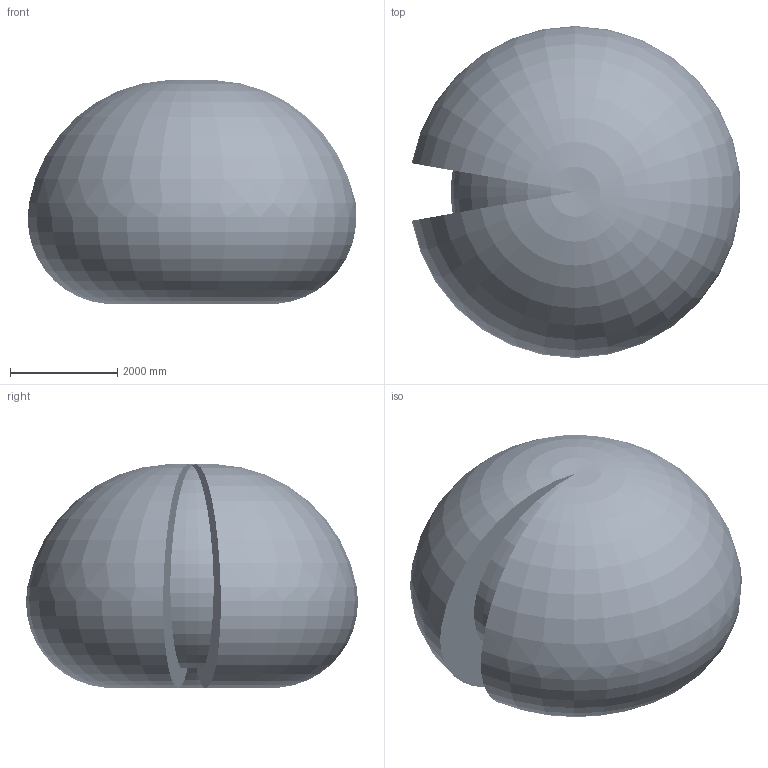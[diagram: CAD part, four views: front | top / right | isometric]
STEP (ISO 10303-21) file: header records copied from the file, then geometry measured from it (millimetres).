
FILE_DESCRIPTION (( 'STEP AP214' ), '1' );
FILE_NAME ('IRB6730_210kg-310_OC_01_ASM_CAD.step', '2026-05-26T08:42:19', ( '' ), ( '' ), 'SwSTEP 2.0', 'SolidWorks 2024', '' );
FILE_SCHEMA (( 'AUTOMOTIVE_DESIGN' ));
Length unit declared in the file: millimetre
Products named in the file (14): IRB6730_210kg-310_OC_00_CYL_CAD; IRB6730_210kg-310_OC_01_ASM_CAD; IRB6730_210kg-310_OC_00_LINK02m_CABLE; IRB6730_210kg-310_OC_00_LINK01_CAD; IRB6730_210kg-310_OC_00_LINK03m_CABLE; IRB6730_210kg-310_OC_00_LINK06_CAD; IRB6730_210kg-310_OC_00_LINK02_CAD; IRB6730_210kg-310_OC_01_LINK05_CAD; IRB6730_210kg-310_OC_00_LINK04_CAD; IRB6730_210kg-310_OC_00_Working-space; IRB6730_210kg-310_OC_00_LINK01m_CABLE; IRB6730_210kg-310_OC_00_BASE_CAD; IRB6730_210kg-310_OC_00_ROD_CAD; IRB6730_210kg-310_OC_00_LINK03_CAD
Assembly tree (13 placements, depth 2):
  IRB6730_210kg-310_OC_01_ASM_CAD
    IRB6730_210kg-310_OC_00_BASE_CAD
    IRB6730_210kg-310_OC_00_CYL_CAD
    IRB6730_210kg-310_OC_00_LINK01_CAD
    IRB6730_210kg-310_OC_00_LINK02_CAD
    IRB6730_210kg-310_OC_00_LINK03_CAD
    IRB6730_210kg-310_OC_00_LINK04_CAD
    IRB6730_210kg-310_OC_01_LINK05_CAD
    IRB6730_210kg-310_OC_00_ROD_CAD
    IRB6730_210kg-310_OC_00_LINK06_CAD
    IRB6730_210kg-310_OC_00_LINK01m_CABLE
    IRB6730_210kg-310_OC_00_LINK02m_CABLE
    IRB6730_210kg-310_OC_00_LINK03m_CABLE
    IRB6730_210kg-310_OC_00_Working-space
Bounding box: 6130.35 x 6194.37 x 4169.03 mm (x, y, z)
Volume: 81707637856.5 mm3; surface area: 139057968 mm2
Topology: 14 solids, 38 shells, 8151 faces, 20825 edges, 13258 vertices
Faces by surface type: plane 3869, cylinder 2058, cone 1277, bspline 586, torus 319, sphere 42
Entity records: 441684 total; most frequent: CARTESIAN_POINT 161542, ORIENTED_EDGE 41366, DIRECTION 37400, EDGE_CURVE 20683, AXIS2_PLACEMENT_3D 13649, VERTEX_POINT 13258, LINE 10102, VECTOR 10102
